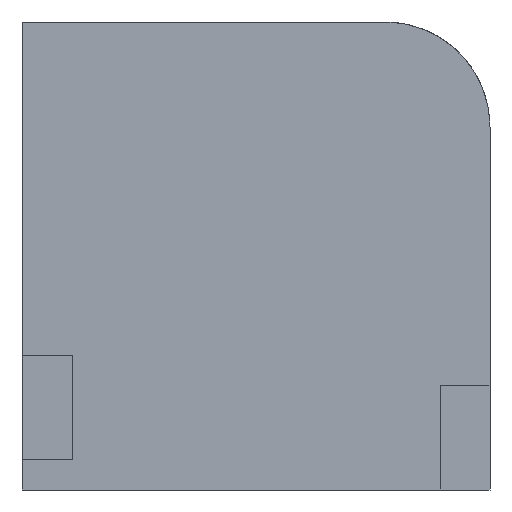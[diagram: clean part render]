
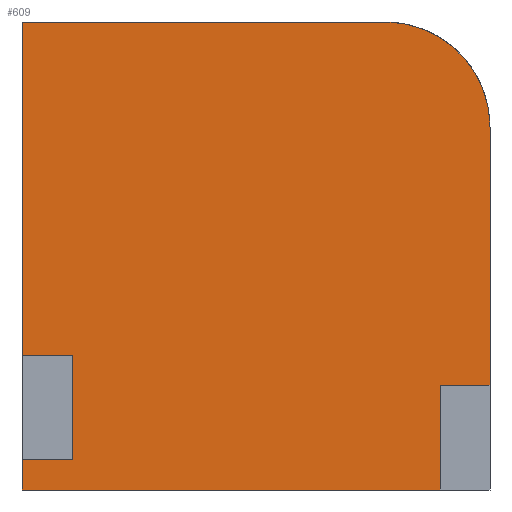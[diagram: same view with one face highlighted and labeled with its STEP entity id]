
A CAD part, front view. The second image highlights one B-rep face of the part: STEP entity #609.
In plain terms, the highlighted planar face has unit normal (0, -1, 0).
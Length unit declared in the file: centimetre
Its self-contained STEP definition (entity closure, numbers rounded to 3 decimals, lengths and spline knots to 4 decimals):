
#14 = ORIENTED_EDGE ( 'NONE', *, *, #1148, .T. ) ;
#35 = CARTESIAN_POINT ( 'NONE',  ( 108.0337, 0., 64.904 ) ) ;
#36 = VECTOR ( 'NONE', #1160, 100. ) ;
#43 = VERTEX_POINT ( 'NONE', #487 ) ;
#50 = VECTOR ( 'NONE', #399, 100. ) ;
#80 = CARTESIAN_POINT ( 'NONE',  ( 893.8505, 0., 224.0265 ) ) ;
#87 = CARTESIAN_POINT ( 'NONE',  ( 108.0337, 0., 288.4124 ) ) ;
#89 = ORIENTED_EDGE ( 'NONE', *, *, #449, .F. ) ;
#90 = VECTOR ( 'NONE', #198, 100. ) ;
#115 = VECTOR ( 'NONE', #753, 100. ) ;
#133 = DIRECTION ( 'NONE',  ( 0., 0., -1. ) ) ;
#138 = ORIENTED_EDGE ( 'NONE', *, *, #561, .F. ) ;
#140 = LINE ( 'NONE', #936, #711 ) ;
#142 = VERTEX_POINT ( 'NONE', #1076 ) ;
#149 = AXIS2_PLACEMENT_3D ( 'NONE', #1058, #888, #254 ) ;
#198 = DIRECTION ( 'NONE',  ( 0., 0., -1. ) ) ;
#201 = ORIENTED_EDGE ( 'NONE', *, *, #360, .T. ) ;
#210 = VERTEX_POINT ( 'NONE', #985 ) ;
#213 = DIRECTION ( 'NONE',  ( 1., 0., 0. ) ) ;
#225 = VERTEX_POINT ( 'NONE', #87 ) ;
#231 = EDGE_CURVE ( 'NONE', #142, #972, #696, .T. ) ;
#254 = DIRECTION ( 'NONE',  ( 0., 0., 1. ) ) ;
#263 = CARTESIAN_POINT ( 'NONE',  ( 108.0337, 0., 288.4124 ) ) ;
#272 = LINE ( 'NONE', #263, #553 ) ;
#341 = FACE_OUTER_BOUND ( 'NONE', #453, .T. ) ;
#360 = EDGE_CURVE ( 'NONE', #927, #43, #1113, .T. ) ;
#368 = CARTESIAN_POINT ( 'NONE',  ( 1000., 0., 1000. ) ) ;
#386 = CARTESIAN_POINT ( 'NONE',  ( 0., 0., 0. ) ) ;
#399 = DIRECTION ( 'NONE',  ( 1., 0., 0. ) ) ;
#412 = LINE ( 'NONE', #1028, #50 ) ;
#414 = CARTESIAN_POINT ( 'NONE',  ( 775.4934, 0., 775.4934 ) ) ;
#429 = VERTEX_POINT ( 'NONE', #839 ) ;
#432 = DIRECTION ( 'NONE',  ( -1., 0., 0. ) ) ;
#436 = EDGE_CURVE ( 'NONE', #429, #868, #412, .T. ) ;
#449 = EDGE_CURVE ( 'NONE', #210, #654, #140, .T. ) ;
#452 = DIRECTION ( 'NONE',  ( 0., 0., -1. ) ) ;
#453 = EDGE_LOOP ( 'NONE', ( #138, #201, #1118, #14, #89, #990, #950, #817, #494, #1147, #1078 ) ) ;
#455 = CARTESIAN_POINT ( 'NONE',  ( 0., 0., 0. ) ) ;
#476 = LINE ( 'NONE', #386, #1085 ) ;
#487 = CARTESIAN_POINT ( 'NONE',  ( 0., 0., 64.904 ) ) ;
#494 = ORIENTED_EDGE ( 'NONE', *, *, #436, .F. ) ;
#518 = DIRECTION ( 'NONE',  ( 0., 0., 1. ) ) ;
#547 = CARTESIAN_POINT ( 'NONE',  ( 0., 0., 288.4124 ) ) ;
#553 = VECTOR ( 'NONE', #432, 100. ) ;
#561 = EDGE_CURVE ( 'NONE', #927, #225, #877, .T. ) ;
#609 = ADVANCED_FACE ( 'NONE', ( #341 ), #702, .F. ) ;
#637 = CARTESIAN_POINT ( 'NONE',  ( 893.8505, 0., 0. ) ) ;
#643 = LINE ( 'NONE', #1005, #90 ) ;
#649 = AXIS2_PLACEMENT_3D ( 'NONE', #414, #788, #518 ) ;
#652 = VECTOR ( 'NONE', #452, 100. ) ;
#654 = VERTEX_POINT ( 'NONE', #637 ) ;
#686 = VERTEX_POINT ( 'NONE', #455 ) ;
#696 = LINE ( 'NONE', #368, #652 ) ;
#702 = PLANE ( 'NONE',  #149 ) ;
#711 = VECTOR ( 'NONE', #133, 100. ) ;
#715 = CARTESIAN_POINT ( 'NONE',  ( 1000., 0., 224.0265 ) ) ;
#716 = VECTOR ( 'NONE', #791, 100. ) ;
#748 = CARTESIAN_POINT ( 'NONE',  ( 775.4934, 0., 1000. ) ) ;
#753 = DIRECTION ( 'NONE',  ( -1., 0., 0. ) ) ;
#769 = EDGE_CURVE ( 'NONE', #43, #686, #643, .T. ) ;
#788 = DIRECTION ( 'NONE',  ( 0., -1., 0. ) ) ;
#791 = DIRECTION ( 'NONE',  ( 0., 0., 1. ) ) ;
#794 = CARTESIAN_POINT ( 'NONE',  ( 108.0337, 0., 64.904 ) ) ;
#797 = LINE ( 'NONE', #80, #36 ) ;
#800 = EDGE_CURVE ( 'NONE', #142, #868, #988, .T. ) ;
#817 = ORIENTED_EDGE ( 'NONE', *, *, #800, .T. ) ;
#839 = CARTESIAN_POINT ( 'NONE',  ( 0., 0., 1000. ) ) ;
#841 = DIRECTION ( 'NONE',  ( 0., 0., -1. ) ) ;
#868 = VERTEX_POINT ( 'NONE', #748 ) ;
#877 = LINE ( 'NONE', #1153, #716 ) ;
#888 = DIRECTION ( 'NONE',  ( 0., 1., 0. ) ) ;
#916 = CARTESIAN_POINT ( 'NONE',  ( 0., 0., 1000. ) ) ;
#927 = VERTEX_POINT ( 'NONE', #794 ) ;
#936 = CARTESIAN_POINT ( 'NONE',  ( 893.8505, 0., 0. ) ) ;
#950 = ORIENTED_EDGE ( 'NONE', *, *, #231, .F. ) ;
#957 = EDGE_CURVE ( 'NONE', #972, #210, #797, .T. ) ;
#972 = VERTEX_POINT ( 'NONE', #715 ) ;
#985 = CARTESIAN_POINT ( 'NONE',  ( 893.8505, 0., 224.0265 ) ) ;
#988 = CIRCLE ( 'NONE', #649, 224.5066 ) ;
#990 = ORIENTED_EDGE ( 'NONE', *, *, #957, .F. ) ;
#995 = EDGE_CURVE ( 'NONE', #225, #1152, #272, .T. ) ;
#1005 = CARTESIAN_POINT ( 'NONE',  ( 0., 0., 1000. ) ) ;
#1011 = VECTOR ( 'NONE', #841, 100. ) ;
#1019 = LINE ( 'NONE', #916, #1011 ) ;
#1028 = CARTESIAN_POINT ( 'NONE',  ( 0., 0., 1000. ) ) ;
#1058 = CARTESIAN_POINT ( 'NONE',  ( 0., 0., 1000. ) ) ;
#1076 = CARTESIAN_POINT ( 'NONE',  ( 1000., 0., 775.4934 ) ) ;
#1078 = ORIENTED_EDGE ( 'NONE', *, *, #995, .F. ) ;
#1085 = VECTOR ( 'NONE', #213, 100. ) ;
#1113 = LINE ( 'NONE', #35, #115 ) ;
#1118 = ORIENTED_EDGE ( 'NONE', *, *, #769, .T. ) ;
#1147 = ORIENTED_EDGE ( 'NONE', *, *, #1155, .T. ) ;
#1148 = EDGE_CURVE ( 'NONE', #686, #654, #476, .T. ) ;
#1152 = VERTEX_POINT ( 'NONE', #547 ) ;
#1153 = CARTESIAN_POINT ( 'NONE',  ( 108.0337, 0., 64.904 ) ) ;
#1155 = EDGE_CURVE ( 'NONE', #429, #1152, #1019, .T. ) ;
#1160 = DIRECTION ( 'NONE',  ( -1., 0., 0. ) ) ;
